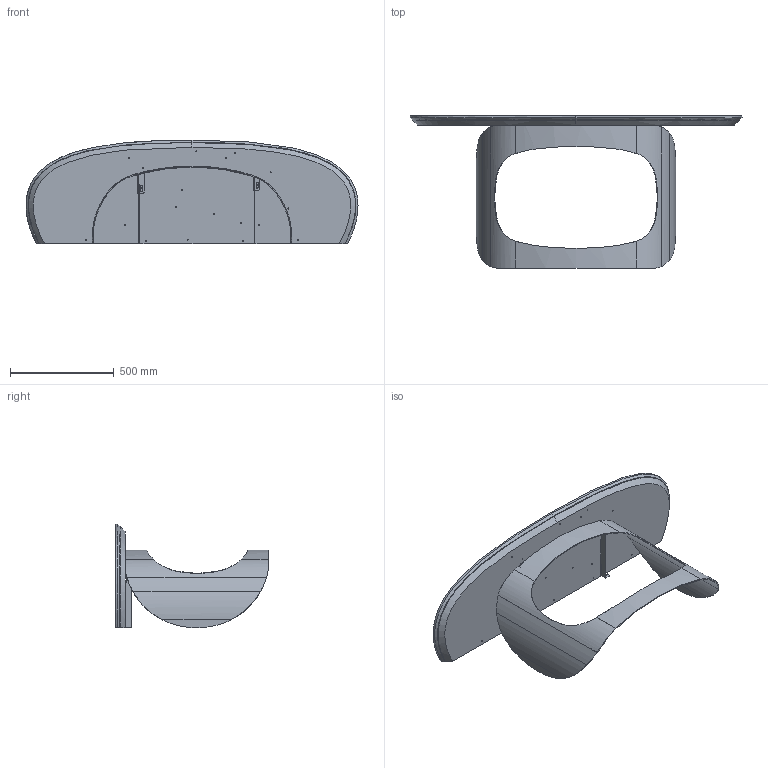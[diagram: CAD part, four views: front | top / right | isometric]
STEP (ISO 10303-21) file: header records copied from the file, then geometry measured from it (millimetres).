
FILE_DESCRIPTION (( 'STEP AP203' ), '1' );
FILE_NAME ('PO60M_Polifemo Console_160x50x73h_Marble Shaped.STEP', '2024-08-02T08:16:53', ( '' ), ( '' ), 'SwSTEP 2.0', 'SolidWorks 2022', '' );
FILE_SCHEMA (( 'CONFIG_CONTROL_DESIGN' ));
Length unit declared in the file: millimetre
Products named in the file (9): KXXXX-00-piani MARMO Sasso per console_160x50; CONSOLLE POLIFEMO_STAFFA DX ANCORAGGIO; POLCSTA01-00-POLIFEMO CONSOLLE STAFFE METALLO VERN.NERO DI FONDO; CONSOLLE POLIFEMO_BASE 02; POLC00000-00-POLIFEMO CONSOLLE CORPO CENTRALE METALLO GREZZO; TRUXXXX-02-NOBILITATO Sasso per console_160x50; PO60M_Polifemo Console_160x50x73h_Marble Shaped; CONSOLLE POLIFEMO_STAFFA SX ANCORAGGIO; KXXXX-00-piani MARMO Sasso per console_160X50
Assembly tree (9 placements, depth 3):
  PO60M_Polifemo Console_160x50x73h_Marble Shaped
    POLC00000-00-POLIFEMO CONSOLLE CORPO CENTRALE METALLO GREZZO
      CONSOLLE POLIFEMO_BASE 02
      CONSOLLE POLIFEMO_STAFFA DX ANCORAGGIO
      CONSOLLE POLIFEMO_STAFFA SX ANCORAGGIO
    POLCSTA01-00-POLIFEMO CONSOLLE STAFFE METALLO VERN.NERO DI FONDO  x2
    KXXXX-00-piani MARMO Sasso per console_160X50
      TRUXXXX-02-NOBILITATO Sasso per console_160x50
      KXXXX-00-piani MARMO Sasso per console_160x50
Bounding box: 1600 x 735 x 500.03 mm (x, y, z)
Volume: 33011167 mm3; surface area: 4052713 mm2
Topology: 7 solids, 7 shells, 289 faces, 735 edges, 456 vertices
Faces by surface type: cylinder 113, plane 84, bspline 52, cone 40
Entity records: 13286 total; most frequent: CARTESIAN_POINT 6533, ORIENTED_EDGE 1214, DIRECTION 1129, EDGE_CURVE 607, AXIS2_PLACEMENT_3D 407, VERTEX_POINT 376, LINE 315, VECTOR 315
